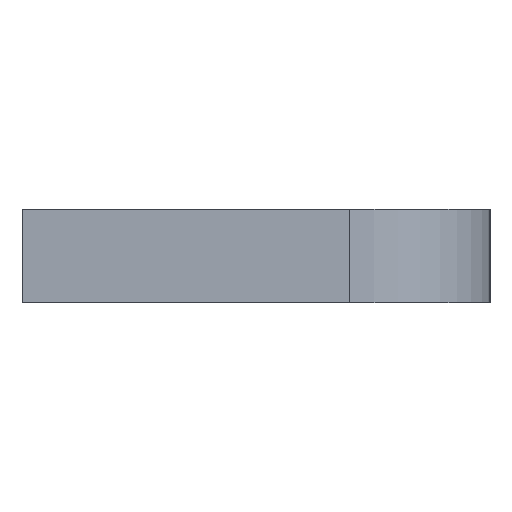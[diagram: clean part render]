
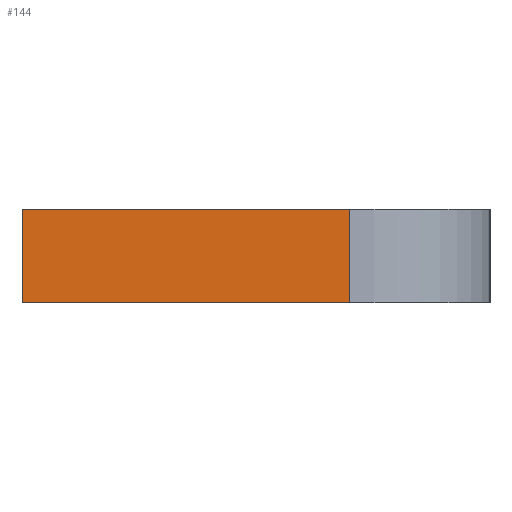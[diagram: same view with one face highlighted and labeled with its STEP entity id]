
A CAD part, left-side view. The second image highlights one B-rep face of the part: STEP entity #144.
In plain terms, the highlighted planar face has unit normal (-1, 0, 0).
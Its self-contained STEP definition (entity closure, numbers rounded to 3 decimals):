
#32 = EDGE_CURVE('',#33,#35,#37,.T.);
#33 = VERTEX_POINT('',#34);
#34 = CARTESIAN_POINT('',(50.,94.5,210.5));
#35 = VERTEX_POINT('',#36);
#36 = CARTESIAN_POINT('',(50.,101.5,210.5));
#37 = LINE('',#38,#39);
#38 = CARTESIAN_POINT('',(50.,91.5,210.5));
#39 = VECTOR('',#40,1.);
#40 = DIRECTION('',(0.,1.,0.));
#144 = ADVANCED_FACE('',(#145),#170,.F.);
#145 = FACE_BOUND('',#146,.F.);
#146 = EDGE_LOOP('',(#147,#157,#163,#164));
#147 = ORIENTED_EDGE('',*,*,#148,.F.);
#148 = EDGE_CURVE('',#149,#151,#153,.T.);
#149 = VERTEX_POINT('',#150);
#150 = CARTESIAN_POINT('',(50.,94.5,212.5));
#151 = VERTEX_POINT('',#152);
#152 = CARTESIAN_POINT('',(50.,101.5,212.5));
#153 = LINE('',#154,#155);
#154 = CARTESIAN_POINT('',(50.,91.5,212.5));
#155 = VECTOR('',#156,1.);
#156 = DIRECTION('',(0.,1.,0.));
#157 = ORIENTED_EDGE('',*,*,#158,.F.);
#158 = EDGE_CURVE('',#33,#149,#159,.T.);
#159 = LINE('',#160,#161);
#160 = CARTESIAN_POINT('',(50.,94.5,210.5));
#161 = VECTOR('',#162,1.);
#162 = DIRECTION('',(0.,0.,1.));
#163 = ORIENTED_EDGE('',*,*,#32,.T.);
#164 = ORIENTED_EDGE('',*,*,#165,.T.);
#165 = EDGE_CURVE('',#35,#151,#166,.T.);
#166 = LINE('',#167,#168);
#167 = CARTESIAN_POINT('',(50.,101.5,210.5));
#168 = VECTOR('',#169,1.);
#169 = DIRECTION('',(0.,0.,1.));
#170 = PLANE('',#171);
#171 = AXIS2_PLACEMENT_3D('',#172,#173,#174);
#172 = CARTESIAN_POINT('',(50.,91.5,210.5));
#173 = DIRECTION('',(1.,0.,0.));
#174 = DIRECTION('',(0.,0.,1.));
